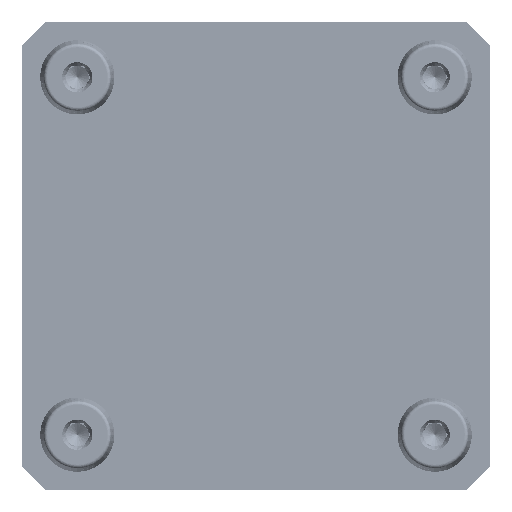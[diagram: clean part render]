
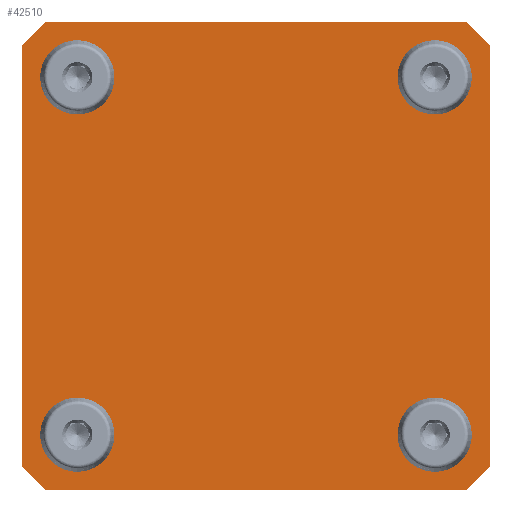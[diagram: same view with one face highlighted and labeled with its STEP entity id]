
A CAD part, front view. The second image highlights one B-rep face of the part: STEP entity #42510.
In plain terms, the highlighted planar face has unit normal (0, -1, 0).
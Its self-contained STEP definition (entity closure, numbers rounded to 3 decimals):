
#137 = CIRCLE ( 'NONE', #11486, 8.01 ) ;
#562 = VERTEX_POINT ( 'NONE', #45625 ) ;
#824 = EDGE_LOOP ( 'NONE', ( #39212, #14910 ) ) ;
#1575 = CARTESIAN_POINT ( 'NONE',  ( 48., 0., -39.99 ) ) ;
#1594 = CARTESIAN_POINT ( 'NONE',  ( -62.865, 0., -62.865 ) ) ;
#1615 = CARTESIAN_POINT ( 'NONE',  ( 56.515, 0., -62.865 ) ) ;
#1976 = EDGE_CURVE ( 'NONE', #53145, #562, #67918, .T. ) ;
#2657 = PLANE ( 'NONE',  #18700 ) ;
#3497 = DIRECTION ( 'NONE',  ( 0., 0., -1. ) ) ;
#4849 = DIRECTION ( 'NONE',  ( 0., 0., 1. ) ) ;
#6418 = CIRCLE ( 'NONE', #79667, 8.01 ) ;
#6533 = EDGE_LOOP ( 'NONE', ( #64183, #78498 ) ) ;
#6669 = DIRECTION ( 'NONE',  ( 1., 0., 0. ) ) ;
#6934 = EDGE_CURVE ( 'NONE', #53145, #57331, #65951, .T. ) ;
#7287 = VERTEX_POINT ( 'NONE', #71511 ) ;
#7340 = ORIENTED_EDGE ( 'NONE', *, *, #6934, .F. ) ;
#8286 = CARTESIAN_POINT ( 'NONE',  ( -62.865, 0., -56.515 ) ) ;
#8490 = CARTESIAN_POINT ( 'NONE',  ( 56.515, 0., -62.865 ) ) ;
#8844 = EDGE_CURVE ( 'NONE', #75049, #36923, #19794, .T. ) ;
#8939 = CIRCLE ( 'NONE', #44249, 8.01 ) ;
#10386 = VERTEX_POINT ( 'NONE', #81407 ) ;
#10667 = ORIENTED_EDGE ( 'NONE', *, *, #50304, .F. ) ;
#11486 = AXIS2_PLACEMENT_3D ( 'NONE', #85086, #44317, #3497 ) ;
#11512 = CIRCLE ( 'NONE', #59140, 8.01 ) ;
#12142 = EDGE_CURVE ( 'NONE', #84112, #48615, #62683, .T. ) ;
#12396 = EDGE_LOOP ( 'NONE', ( #10667, #12606 ) ) ;
#12606 = ORIENTED_EDGE ( 'NONE', *, *, #12142, .F. ) ;
#13002 = VERTEX_POINT ( 'NONE', #81310 ) ;
#14910 = ORIENTED_EDGE ( 'NONE', *, *, #34650, .F. ) ;
#15825 = ORIENTED_EDGE ( 'NONE', *, *, #41495, .T. ) ;
#16434 = CARTESIAN_POINT ( 'NONE',  ( 0., 0., 0. ) ) ;
#17151 = ORIENTED_EDGE ( 'NONE', *, *, #36106, .F. ) ;
#18404 = VERTEX_POINT ( 'NONE', #37775 ) ;
#18700 = AXIS2_PLACEMENT_3D ( 'NONE', #16434, #64074, #23239 ) ;
#19794 = LINE ( 'NONE', #81875, #37912 ) ;
#20063 = ORIENTED_EDGE ( 'NONE', *, *, #61728, .F. ) ;
#20325 = EDGE_CURVE ( 'NONE', #66826, #52813, #42428, .T. ) ;
#20420 = AXIS2_PLACEMENT_3D ( 'NONE', #36252, #83899, #43122 ) ;
#23239 = DIRECTION ( 'NONE',  ( 0., 0., 1. ) ) ;
#25615 = DIRECTION ( 'NONE',  ( 0., -1., 0. ) ) ;
#26756 = CARTESIAN_POINT ( 'NONE',  ( 48., 0., -48. ) ) ;
#27236 = AXIS2_PLACEMENT_3D ( 'NONE', #26756, #74325, #33576 ) ;
#27714 = DIRECTION ( 'NONE',  ( 0., 0., -1. ) ) ;
#28338 = DIRECTION ( 'NONE',  ( 0., -1., 0. ) ) ;
#28475 = EDGE_CURVE ( 'NONE', #75049, #57331, #73195, .T. ) ;
#29628 = CARTESIAN_POINT ( 'NONE',  ( 62.865, 0., -56.515 ) ) ;
#29812 = CARTESIAN_POINT ( 'NONE',  ( 48., 0., -56.01 ) ) ;
#30276 = CARTESIAN_POINT ( 'NONE',  ( -56.515, 0., 62.865 ) ) ;
#30594 = ORIENTED_EDGE ( 'NONE', *, *, #36784, .T. ) ;
#31480 = CARTESIAN_POINT ( 'NONE',  ( -48., 0., 56.01 ) ) ;
#31688 = VECTOR ( 'NONE', #79476, 1000. ) ;
#31797 = LINE ( 'NONE', #8286, #68037 ) ;
#31863 = CARTESIAN_POINT ( 'NONE',  ( -56.515, 0., 62.865 ) ) ;
#33576 = DIRECTION ( 'NONE',  ( 0., 0., -1. ) ) ;
#34018 = EDGE_CURVE ( 'NONE', #10386, #562, #39118, .T. ) ;
#34335 = CARTESIAN_POINT ( 'NONE',  ( -48., 0., 48. ) ) ;
#34650 = EDGE_CURVE ( 'NONE', #7287, #77123, #11512, .T. ) ;
#36106 = EDGE_CURVE ( 'NONE', #18404, #59242, #51604, .T. ) ;
#36252 = CARTESIAN_POINT ( 'NONE',  ( 48., 0., 48. ) ) ;
#36784 = EDGE_CURVE ( 'NONE', #66826, #36923, #37522, .T. ) ;
#36923 = VERTEX_POINT ( 'NONE', #29628 ) ;
#37522 = LINE ( 'NONE', #1615, #73720 ) ;
#37775 = CARTESIAN_POINT ( 'NONE',  ( -48., 0., 39.99 ) ) ;
#37912 = VECTOR ( 'NONE', #27714, 1000. ) ;
#37939 = CARTESIAN_POINT ( 'NONE',  ( 62.865, 0., 56.515 ) ) ;
#38080 = EDGE_CURVE ( 'NONE', #48608, #13002, #71361, .T. ) ;
#38133 = CARTESIAN_POINT ( 'NONE',  ( -48., 0., -48. ) ) ;
#39118 = LINE ( 'NONE', #1594, #75293 ) ;
#39212 = ORIENTED_EDGE ( 'NONE', *, *, #52221, .F. ) ;
#39424 = ORIENTED_EDGE ( 'NONE', *, *, #20325, .F. ) ;
#40278 = VECTOR ( 'NONE', #41112, 1000. ) ;
#40630 = ORIENTED_EDGE ( 'NONE', *, *, #1976, .T. ) ;
#41112 = DIRECTION ( 'NONE',  ( -1., 0., 0. ) ) ;
#41170 = DIRECTION ( 'NONE',  ( 0., 0., -1. ) ) ;
#41305 = FACE_OUTER_BOUND ( 'NONE', #51251, .T. ) ;
#41495 = EDGE_CURVE ( 'NONE', #10386, #52813, #31797, .T. ) ;
#42428 = LINE ( 'NONE', #54853, #40278 ) ;
#42510 = ADVANCED_FACE ( 'NONE', ( #59451, #79646, #61591, #77509, #41305 ), #2657, .F. ) ;
#43122 = DIRECTION ( 'NONE',  ( 0., 0., 1. ) ) ;
#44249 = AXIS2_PLACEMENT_3D ( 'NONE', #38133, #85749, #45000 ) ;
#44317 = DIRECTION ( 'NONE',  ( 0., -1., 0. ) ) ;
#45000 = DIRECTION ( 'NONE',  ( 0., 0., 1. ) ) ;
#45466 = CARTESIAN_POINT ( 'NONE',  ( 48., 0., 39.99 ) ) ;
#45625 = CARTESIAN_POINT ( 'NONE',  ( -62.865, 0., 56.515 ) ) ;
#45648 = DIRECTION ( 'NONE',  ( 0., -1., 0. ) ) ;
#48608 = VERTEX_POINT ( 'NONE', #83704 ) ;
#48615 = VERTEX_POINT ( 'NONE', #29812 ) ;
#48668 = EDGE_CURVE ( 'NONE', #13002, #48608, #8939, .T. ) ;
#49326 = DIRECTION ( 'NONE',  ( 0., 0., 1. ) ) ;
#49345 = DIRECTION ( 'NONE',  ( 0.707, 0., 0.707 ) ) ;
#50304 = EDGE_CURVE ( 'NONE', #48615, #84112, #6418, .T. ) ;
#51251 = EDGE_LOOP ( 'NONE', ( #68943, #15825, #39424, #30594, #60886, #67920, #7340, #40630 ) ) ;
#51604 = CIRCLE ( 'NONE', #83750, 8.01 ) ;
#52221 = EDGE_CURVE ( 'NONE', #77123, #7287, #79534, .T. ) ;
#52813 = VERTEX_POINT ( 'NONE', #55554 ) ;
#53145 = VERTEX_POINT ( 'NONE', #30276 ) ;
#53358 = CARTESIAN_POINT ( 'NONE',  ( 56.515, 0., 62.865 ) ) ;
#54342 = CARTESIAN_POINT ( 'NONE',  ( -62.865, 0., 62.865 ) ) ;
#54853 = CARTESIAN_POINT ( 'NONE',  ( -62.865, 0., -62.865 ) ) ;
#55138 = VECTOR ( 'NONE', #85572, 1000. ) ;
#55554 = CARTESIAN_POINT ( 'NONE',  ( -56.515, 0., -62.865 ) ) ;
#55890 = DIRECTION ( 'NONE',  ( 0.707, 0., -0.707 ) ) ;
#56380 = VECTOR ( 'NONE', #6669, 1000. ) ;
#57331 = VERTEX_POINT ( 'NONE', #53358 ) ;
#59140 = AXIS2_PLACEMENT_3D ( 'NONE', #69136, #28338, #75930 ) ;
#59242 = VERTEX_POINT ( 'NONE', #31480 ) ;
#59451 = FACE_BOUND ( 'NONE', #824, .T. ) ;
#60372 = CARTESIAN_POINT ( 'NONE',  ( 62.865, 0., 56.515 ) ) ;
#60769 = EDGE_LOOP ( 'NONE', ( #17151, #20063 ) ) ;
#60886 = ORIENTED_EDGE ( 'NONE', *, *, #8844, .F. ) ;
#61591 = FACE_BOUND ( 'NONE', #12396, .T. ) ;
#61728 = EDGE_CURVE ( 'NONE', #59242, #18404, #137, .T. ) ;
#62683 = CIRCLE ( 'NONE', #27236, 8.01 ) ;
#64074 = DIRECTION ( 'NONE',  ( 0., 1., 0. ) ) ;
#64183 = ORIENTED_EDGE ( 'NONE', *, *, #38080, .F. ) ;
#65647 = AXIS2_PLACEMENT_3D ( 'NONE', #86407, #45648, #4849 ) ;
#65951 = LINE ( 'NONE', #54342, #56380 ) ;
#66421 = CARTESIAN_POINT ( 'NONE',  ( 48., 0., -48. ) ) ;
#66826 = VERTEX_POINT ( 'NONE', #8490 ) ;
#67918 = LINE ( 'NONE', #31863, #31688 ) ;
#67920 = ORIENTED_EDGE ( 'NONE', *, *, #28475, .T. ) ;
#68037 = VECTOR ( 'NONE', #55890, 1000. ) ;
#68943 = ORIENTED_EDGE ( 'NONE', *, *, #34018, .F. ) ;
#69136 = CARTESIAN_POINT ( 'NONE',  ( 48., 0., 48. ) ) ;
#71361 = CIRCLE ( 'NONE', #65647, 8.01 ) ;
#71511 = CARTESIAN_POINT ( 'NONE',  ( 48., 0., 56.01 ) ) ;
#73195 = LINE ( 'NONE', #37939, #55138 ) ;
#73199 = DIRECTION ( 'NONE',  ( 0., 0., -1. ) ) ;
#73720 = VECTOR ( 'NONE', #49345, 1000. ) ;
#74325 = DIRECTION ( 'NONE',  ( 0., -1., 0. ) ) ;
#75049 = VERTEX_POINT ( 'NONE', #60372 ) ;
#75293 = VECTOR ( 'NONE', #49326, 1000. ) ;
#75930 = DIRECTION ( 'NONE',  ( 0., 0., 1. ) ) ;
#77123 = VERTEX_POINT ( 'NONE', #45466 ) ;
#77509 = FACE_BOUND ( 'NONE', #60769, .T. ) ;
#78498 = ORIENTED_EDGE ( 'NONE', *, *, #48668, .F. ) ;
#79476 = DIRECTION ( 'NONE',  ( -0.707, 0., -0.707 ) ) ;
#79534 = CIRCLE ( 'NONE', #20420, 8.01 ) ;
#79646 = FACE_BOUND ( 'NONE', #6533, .T. ) ;
#79667 = AXIS2_PLACEMENT_3D ( 'NONE', #66421, #25615, #73199 ) ;
#81310 = CARTESIAN_POINT ( 'NONE',  ( -48., 0., -39.99 ) ) ;
#81407 = CARTESIAN_POINT ( 'NONE',  ( -62.865, 0., -56.515 ) ) ;
#81875 = CARTESIAN_POINT ( 'NONE',  ( 62.865, 0., -62.865 ) ) ;
#81960 = DIRECTION ( 'NONE',  ( 0., -1., 0. ) ) ;
#83704 = CARTESIAN_POINT ( 'NONE',  ( -48., 0., -56.01 ) ) ;
#83750 = AXIS2_PLACEMENT_3D ( 'NONE', #34335, #81960, #41170 ) ;
#83899 = DIRECTION ( 'NONE',  ( 0., -1., 0. ) ) ;
#84112 = VERTEX_POINT ( 'NONE', #1575 ) ;
#85086 = CARTESIAN_POINT ( 'NONE',  ( -48., 0., 48. ) ) ;
#85572 = DIRECTION ( 'NONE',  ( -0.707, 0., 0.707 ) ) ;
#85749 = DIRECTION ( 'NONE',  ( 0., -1., 0. ) ) ;
#86407 = CARTESIAN_POINT ( 'NONE',  ( -48., 0., -48. ) ) ;
